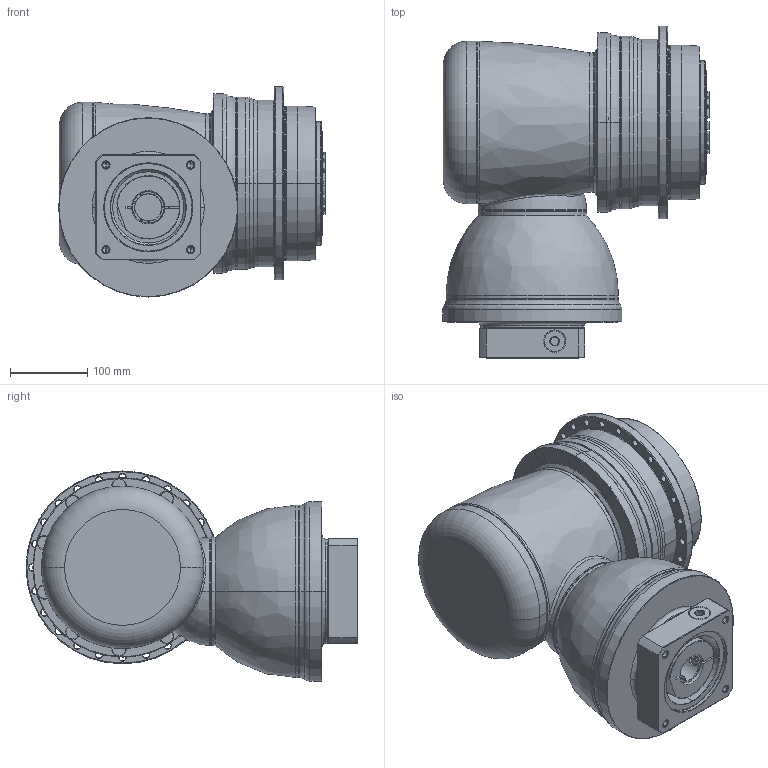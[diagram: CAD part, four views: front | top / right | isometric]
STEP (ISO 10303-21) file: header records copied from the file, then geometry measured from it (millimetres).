
FILE_DESCRIPTION((''),'2;1');
FILE_NAME('APCK200_2ST_35-P0409800201_ASM','2018-05-09T',('d01226'),(''),'PRO/ENGINEER BY PARAMETRIC TECHNOLOGY CORPORATION, 2008410','PRO/ENGINEER BY PARAMETRIC TECHNOLOGY CORPORATION, 2008410','');
FILE_SCHEMA(('CONFIG_CONTROL_DESIGN'));
Length unit declared in the file: millimetre
Products named in the file (13): P1008600002; P1802610011; P0278601003; P0359660103; P1211600001; P1315600001; P1007601001; P1318610101; P0409800201; P0503800012; P0912601001; 21711422019; APCK200_2ST_35-P0409800201_ASM
Assembly tree (12 placements, depth 2):
  APCK200_2ST_35-P0409800201_ASM
    P1008600002
    P1802610011
    P0278601003
    P0359660103
    P1211600001
    P1315600001
    P1007601001
    P1318610101
    P0409800201
    P0503800012
    P0912601001
    21711422019
Bounding box: 345.1 x 429.25 x 271.75 mm (x, y, z)
Volume: 17637864.1 mm3; surface area: 1130982.6 mm2
Topology: 13 solids, 23 shells, 803 faces, 1877 edges, 1148 vertices
Faces by surface type: cylinder 265, cone 236, plane 153, torus 114, bspline 33, sphere 2
Entity records: 30051 total; most frequent: CARTESIAN_POINT 11040, DIRECTION 4305, ORIENTED_EDGE 3684, AXIS2_PLACEMENT_3D 1884, EDGE_CURVE 1863, VERTEX_POINT 1148, CIRCLE 1079, EDGE_LOOP 929
